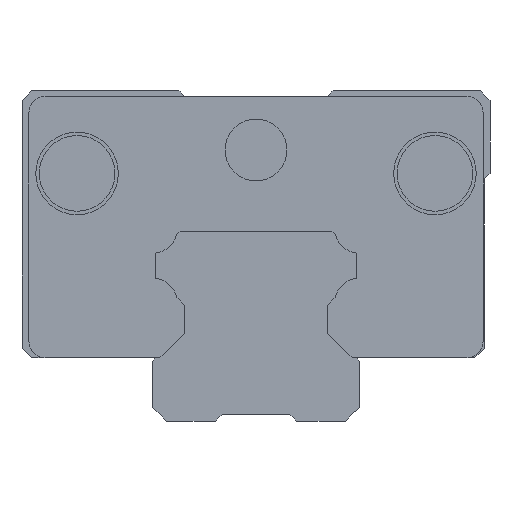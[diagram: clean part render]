
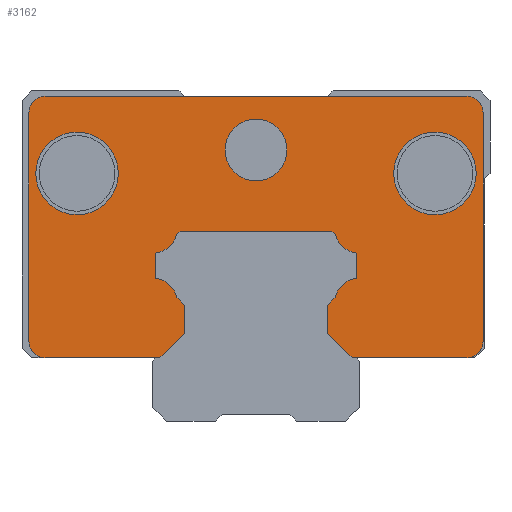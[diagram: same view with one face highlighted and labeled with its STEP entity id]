
A CAD part, left-side view. The second image highlights one B-rep face of the part: STEP entity #3162.
In plain terms, the highlighted planar face has unit normal (-1, 0, 0).
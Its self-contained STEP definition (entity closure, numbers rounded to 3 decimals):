
#2817=CARTESIAN_POINT('',(0.0,-10.0,18.));
#2818=VERTEX_POINT('',#2817);
#2819=CARTESIAN_POINT('',(0.0,-13.0,18.));
#2820=DIRECTION('',(1.0,0.0,0.0));
#2821=DIRECTION('',(0.0,-1.0,0.0));
#2822=AXIS2_PLACEMENT_3D('',#2819,#2820,#2821);
#2823=CIRCLE('',#2822,3.);
#2824=EDGE_CURVE('',#2818,#2818,#2823,.T.);
#2857=CARTESIAN_POINT('',(0.0,2.25,19.7));
#2858=VERTEX_POINT('',#2857);
#2859=CARTESIAN_POINT('',(0.0,0.,19.7));
#2860=DIRECTION('',(1.0,0.0,0.0));
#2861=DIRECTION('',(0.0,-1.0,0.0));
#2862=AXIS2_PLACEMENT_3D('',#2859,#2860,#2861);
#2863=CIRCLE('',#2862,2.25);
#2864=EDGE_CURVE('',#2858,#2858,#2863,.T.);
#2922=CARTESIAN_POINT('',(0.0,16.,18.));
#2923=VERTEX_POINT('',#2922);
#2924=CARTESIAN_POINT('',(0.0,13.,18.));
#2925=DIRECTION('',(1.0,0.0,0.0));
#2926=DIRECTION('',(0.0,-1.0,0.0));
#2927=AXIS2_PLACEMENT_3D('',#2924,#2925,#2926);
#2928=CIRCLE('',#2927,3.);
#2929=EDGE_CURVE('',#2923,#2923,#2928,.T.);
#2946=CARTESIAN_POINT('',(0.0,0.,14.219));
#2947=DIRECTION('',(1.0,0.0,0.0));
#2948=DIRECTION('',(0.0,0.0,-1.0));
#2949=AXIS2_PLACEMENT_3D('',#2946,#2947,#2948);
#2950=PLANE('',#2949);
#2951=CARTESIAN_POINT('',(0.0,-16.5,5.8));
#2952=VERTEX_POINT('',#2951);
#2953=CARTESIAN_POINT('',(0.0,-15.3,4.6));
#2954=VERTEX_POINT('',#2953);
#2955=CARTESIAN_POINT('',(0.0,-15.3,5.8));
#2956=DIRECTION('',(1.0,0.0,0.0));
#2957=DIRECTION('',(0.0,-1.0,0.0));
#2958=AXIS2_PLACEMENT_3D('',#2955,#2956,#2957);
#2959=CIRCLE('',#2958,1.2);
#2960=EDGE_CURVE('',#2952,#2954,#2959,.T.);
#2961=ORIENTED_EDGE('',*,*,#2960,.F.);
#2962=CARTESIAN_POINT('',(0.0,-16.5,22.4));
#2963=VERTEX_POINT('',#2962);
#2964=CARTESIAN_POINT('',(0.0,-16.5,22.4));
#2965=DIRECTION('',(0.0,0.0,-1.0));
#2966=VECTOR('',#2965,16.6);
#2967=LINE('',#2964,#2966);
#2968=EDGE_CURVE('',#2963,#2952,#2967,.T.);
#2969=ORIENTED_EDGE('',*,*,#2968,.F.);
#2970=CARTESIAN_POINT('',(0.0,-15.3,23.6));
#2971=VERTEX_POINT('',#2970);
#2972=CARTESIAN_POINT('',(0.0,-15.3,22.4));
#2973=DIRECTION('',(1.0,0.0,0.0));
#2974=DIRECTION('',(0.0,0.0,1.0));
#2975=AXIS2_PLACEMENT_3D('',#2972,#2973,#2974);
#2976=CIRCLE('',#2975,1.2);
#2977=EDGE_CURVE('',#2971,#2963,#2976,.T.);
#2978=ORIENTED_EDGE('',*,*,#2977,.F.);
#2979=CARTESIAN_POINT('',(0.0,15.3,23.6));
#2980=VERTEX_POINT('',#2979);
#2981=CARTESIAN_POINT('',(0.0,15.3,23.6));
#2982=DIRECTION('',(0.0,-1.0,0.0));
#2983=VECTOR('',#2982,30.6);
#2984=LINE('',#2981,#2983);
#2985=EDGE_CURVE('',#2980,#2971,#2984,.T.);
#2986=ORIENTED_EDGE('',*,*,#2985,.F.);
#2987=CARTESIAN_POINT('',(0.0,16.5,22.4));
#2988=VERTEX_POINT('',#2987);
#2989=CARTESIAN_POINT('',(0.0,15.3,22.4));
#2990=DIRECTION('',(1.0,0.0,0.0));
#2991=DIRECTION('',(0.0,1.,0.));
#2992=AXIS2_PLACEMENT_3D('',#2989,#2990,#2991);
#2993=CIRCLE('',#2992,1.2);
#2994=EDGE_CURVE('',#2988,#2980,#2993,.T.);
#2995=ORIENTED_EDGE('',*,*,#2994,.F.);
#2996=CARTESIAN_POINT('',(0.0,16.5,5.8));
#2997=VERTEX_POINT('',#2996);
#2998=CARTESIAN_POINT('',(0.0,16.5,5.8));
#2999=DIRECTION('',(0.0,0.0,1.0));
#3000=VECTOR('',#2999,16.6);
#3001=LINE('',#2998,#3000);
#3002=EDGE_CURVE('',#2997,#2988,#3001,.T.);
#3003=ORIENTED_EDGE('',*,*,#3002,.F.);
#3004=CARTESIAN_POINT('',(0.0,15.3,4.6));
#3005=VERTEX_POINT('',#3004);
#3006=CARTESIAN_POINT('',(0.0,15.3,5.8));
#3007=DIRECTION('',(1.0,0.0,0.0));
#3008=DIRECTION('',(0.0,0.0,-1.0));
#3009=AXIS2_PLACEMENT_3D('',#3006,#3007,#3008);
#3010=CIRCLE('',#3009,1.2);
#3011=EDGE_CURVE('',#3005,#2997,#3010,.T.);
#3012=ORIENTED_EDGE('',*,*,#3011,.F.);
#3013=CARTESIAN_POINT('',(0.0,6.976,4.6));
#3014=VERTEX_POINT('',#3013);
#3015=CARTESIAN_POINT('',(0.0,6.976,4.6));
#3016=DIRECTION('',(0.0,1.0,0.0));
#3017=VECTOR('',#3016,8.324);
#3018=LINE('',#3015,#3017);
#3019=EDGE_CURVE('',#3014,#3005,#3018,.T.);
#3020=ORIENTED_EDGE('',*,*,#3019,.F.);
#3021=CARTESIAN_POINT('',(0.0,5.2,6.376));
#3022=VERTEX_POINT('',#3021);
#3023=CARTESIAN_POINT('',(0.0,5.2,6.376));
#3024=DIRECTION('',(0.0,0.707,-0.707));
#3025=VECTOR('',#3024,2.511);
#3026=LINE('',#3023,#3025);
#3027=EDGE_CURVE('',#3022,#3014,#3026,.T.);
#3028=ORIENTED_EDGE('',*,*,#3027,.F.);
#3029=CARTESIAN_POINT('',(0.0,5.2,8.424));
#3030=VERTEX_POINT('',#3029);
#3031=CARTESIAN_POINT('',(0.0,5.2,8.424));
#3032=DIRECTION('',(0.0,0.0,-1.0));
#3033=VECTOR('',#3032,2.049);
#3034=LINE('',#3031,#3033);
#3035=EDGE_CURVE('',#3030,#3022,#3034,.T.);
#3036=ORIENTED_EDGE('',*,*,#3035,.F.);
#3037=CARTESIAN_POINT('',(0.0,5.74,8.964));
#3038=VERTEX_POINT('',#3037);
#3039=CARTESIAN_POINT('',(0.0,5.74,8.964));
#3040=DIRECTION('',(0.0,-0.707,-0.707));
#3041=VECTOR('',#3040,0.763);
#3042=LINE('',#3039,#3041);
#3043=EDGE_CURVE('',#3038,#3030,#3042,.T.);
#3044=ORIENTED_EDGE('',*,*,#3043,.F.);
#3045=CARTESIAN_POINT('',(0.0,7.3,10.39));
#3046=VERTEX_POINT('',#3045);
#3047=CARTESIAN_POINT('',(0.0,7.545,8.555));
#3048=DIRECTION('',(1.0,0.0,0.0));
#3049=DIRECTION('',(0.0,-0.132,0.991));
#3050=AXIS2_PLACEMENT_3D('',#3047,#3048,#3049);
#3051=CIRCLE('',#3050,1.851);
#3052=EDGE_CURVE('',#3046,#3038,#3051,.T.);
#3053=ORIENTED_EDGE('',*,*,#3052,.F.);
#3054=CARTESIAN_POINT('',(0.0,7.3,12.21));
#3055=VERTEX_POINT('',#3054);
#3056=CARTESIAN_POINT('',(0.0,7.3,12.21));
#3057=DIRECTION('',(0.0,0.0,-1.0));
#3058=VECTOR('',#3057,1.82);
#3059=LINE('',#3056,#3058);
#3060=EDGE_CURVE('',#3055,#3046,#3059,.T.);
#3061=ORIENTED_EDGE('',*,*,#3060,.F.);
#3062=CARTESIAN_POINT('',(0.0,5.759,13.558));
#3063=VERTEX_POINT('',#3062);
#3064=CARTESIAN_POINT('',(0.0,7.545,14.045));
#3065=DIRECTION('',(1.0,0.0,0.0));
#3066=DIRECTION('',(0.0,-0.965,-0.263));
#3067=AXIS2_PLACEMENT_3D('',#3064,#3065,#3066);
#3068=CIRCLE('',#3067,1.851);
#3069=EDGE_CURVE('',#3063,#3055,#3068,.T.);
#3070=ORIENTED_EDGE('',*,*,#3069,.F.);
#3071=CARTESIAN_POINT('',(0.0,5.517,13.8));
#3072=VERTEX_POINT('',#3071);
#3073=CARTESIAN_POINT('',(0.0,5.517,13.8));
#3074=DIRECTION('',(0.0,0.707,-0.707));
#3075=VECTOR('',#3074,0.342);
#3076=LINE('',#3073,#3075);
#3077=EDGE_CURVE('',#3072,#3063,#3076,.T.);
#3078=ORIENTED_EDGE('',*,*,#3077,.F.);
#3079=CARTESIAN_POINT('',(0.0,-5.517,13.8));
#3080=VERTEX_POINT('',#3079);
#3081=CARTESIAN_POINT('',(0.0,-5.517,13.8));
#3082=DIRECTION('',(0.0,1.0,0.0));
#3083=VECTOR('',#3082,11.034);
#3084=LINE('',#3081,#3083);
#3085=EDGE_CURVE('',#3080,#3072,#3084,.T.);
#3086=ORIENTED_EDGE('',*,*,#3085,.F.);
#3087=CARTESIAN_POINT('',(0.0,-5.759,13.558));
#3088=VERTEX_POINT('',#3087);
#3089=CARTESIAN_POINT('',(0.0,-5.759,13.558));
#3090=DIRECTION('',(0.0,0.707,0.707));
#3091=VECTOR('',#3090,0.342);
#3092=LINE('',#3089,#3091);
#3093=EDGE_CURVE('',#3088,#3080,#3092,.T.);
#3094=ORIENTED_EDGE('',*,*,#3093,.F.);
#3095=CARTESIAN_POINT('',(0.0,-7.3,12.21));
#3096=VERTEX_POINT('',#3095);
#3097=CARTESIAN_POINT('',(0.0,-7.545,14.045));
#3098=DIRECTION('',(1.,0.0,0.0));
#3099=DIRECTION('',(0.0,0.132,-0.991));
#3100=AXIS2_PLACEMENT_3D('',#3097,#3098,#3099);
#3101=CIRCLE('',#3100,1.851);
#3102=EDGE_CURVE('',#3096,#3088,#3101,.T.);
#3103=ORIENTED_EDGE('',*,*,#3102,.F.);
#3104=CARTESIAN_POINT('',(0.0,-7.3,10.39));
#3105=VERTEX_POINT('',#3104);
#3106=CARTESIAN_POINT('',(0.0,-7.3,10.39));
#3107=DIRECTION('',(0.0,0.0,1.0));
#3108=VECTOR('',#3107,1.82);
#3109=LINE('',#3106,#3108);
#3110=EDGE_CURVE('',#3105,#3096,#3109,.T.);
#3111=ORIENTED_EDGE('',*,*,#3110,.F.);
#3112=CARTESIAN_POINT('',(0.0,-5.74,8.964));
#3113=VERTEX_POINT('',#3112);
#3114=CARTESIAN_POINT('',(0.0,-7.545,8.555));
#3115=DIRECTION('',(1.,0.0,0.0));
#3116=DIRECTION('',(0.0,0.975,0.221));
#3117=AXIS2_PLACEMENT_3D('',#3114,#3115,#3116);
#3118=CIRCLE('',#3117,1.851);
#3119=EDGE_CURVE('',#3113,#3105,#3118,.T.);
#3120=ORIENTED_EDGE('',*,*,#3119,.F.);
#3121=CARTESIAN_POINT('',(0.0,-5.2,8.424));
#3122=VERTEX_POINT('',#3121);
#3123=CARTESIAN_POINT('',(0.0,-5.2,8.424));
#3124=DIRECTION('',(0.0,-0.707,0.707));
#3125=VECTOR('',#3124,0.763);
#3126=LINE('',#3123,#3125);
#3127=EDGE_CURVE('',#3122,#3113,#3126,.T.);
#3128=ORIENTED_EDGE('',*,*,#3127,.F.);
#3129=CARTESIAN_POINT('',(0.0,-5.2,6.376));
#3130=VERTEX_POINT('',#3129);
#3131=CARTESIAN_POINT('',(0.0,-5.2,6.376));
#3132=DIRECTION('',(0.0,0.0,1.0));
#3133=VECTOR('',#3132,2.049);
#3134=LINE('',#3131,#3133);
#3135=EDGE_CURVE('',#3130,#3122,#3134,.T.);
#3136=ORIENTED_EDGE('',*,*,#3135,.F.);
#3137=CARTESIAN_POINT('',(0.0,-6.976,4.6));
#3138=VERTEX_POINT('',#3137);
#3139=CARTESIAN_POINT('',(0.0,-6.976,4.6));
#3140=DIRECTION('',(0.0,0.707,0.707));
#3141=VECTOR('',#3140,2.511);
#3142=LINE('',#3139,#3141);
#3143=EDGE_CURVE('',#3138,#3130,#3142,.T.);
#3144=ORIENTED_EDGE('',*,*,#3143,.F.);
#3145=CARTESIAN_POINT('',(0.0,-15.3,4.6));
#3146=DIRECTION('',(0.0,1.0,0.0));
#3147=VECTOR('',#3146,8.324);
#3148=LINE('',#3145,#3147);
#3149=EDGE_CURVE('',#2954,#3138,#3148,.T.);
#3150=ORIENTED_EDGE('',*,*,#3149,.F.);
#3151=EDGE_LOOP('',(#2961,#2969,#2978,#2986,#2995,#3003,#3012,#3020,#3028,#3036,#3044,#3053,#3061,#3070,#3078,#3086,#3094,#3103,#3111,#3120,#3128,#3136,#3144,#3150));
#3152=FACE_OUTER_BOUND('',#3151,.T.);
#3153=ORIENTED_EDGE('',*,*,#2824,.T.);
#3154=EDGE_LOOP('',(#3153));
#3155=FACE_BOUND('',#3154,.T.);
#3156=ORIENTED_EDGE('',*,*,#2864,.T.);
#3157=EDGE_LOOP('',(#3156));
#3158=FACE_BOUND('',#3157,.T.);
#3159=ORIENTED_EDGE('',*,*,#2929,.T.);
#3160=EDGE_LOOP('',(#3159));
#3161=FACE_BOUND('',#3160,.T.);
#3162=ADVANCED_FACE('',(#3152,#3155,#3158,#3161),#2950,.F.);
